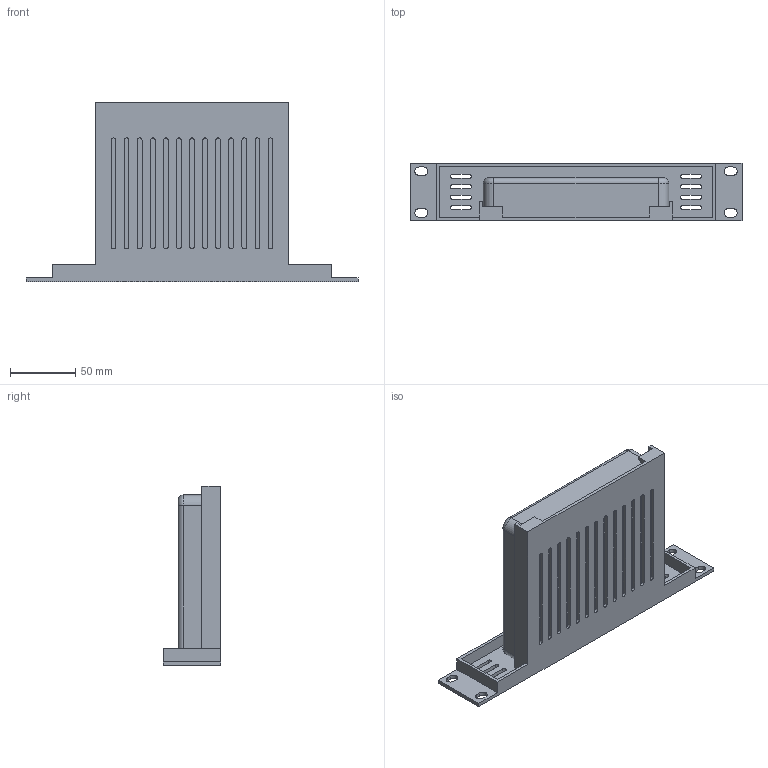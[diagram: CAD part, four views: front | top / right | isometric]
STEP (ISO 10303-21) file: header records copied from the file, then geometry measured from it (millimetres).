
FILE_DESCRIPTION(('Open CASCADE Model'),'2;1');
FILE_NAME('Open CASCADE Shape Model','2026-10-27T02:33:57',('Author'),( 'Open CASCADE'),'Open CASCADE STEP processor 7.9','Open CASCADE 7.9' ,'Unknown');
FILE_SCHEMA(('AUTOMOTIVE_DESIGN { 1 0 10303 214 1 1 1 1 }'));
Length unit declared in the file: millimetre
Products named in the file (3): c23de8e0-d180-11f1-94f0-77a649a1a46c; UCG_shelf; UCG_Ultra
Assembly tree (2 placements, depth 2):
  c23de8e0-d180-11f1-94f0-77a649a1a46c
    UCG_shelf
    UCG_Ultra
Bounding box: 254 x 43.65 x 137.2 mm (x, y, z)
Volume: 617543.5 mm3; surface area: 122002.5 mm2
Topology: 2 solids, 2 shells, 158 faces, 454 edges, 300 vertices
Faces by surface type: plane 92, cylinder 62, torus 4
Entity records: 11290 total; most frequent: CARTESIAN_POINT 2701, DIRECTION 1444, ORIENTED_EDGE 908, PCURVE 908, DEFINITIONAL_REPRESENTATION 908, LINE 852, VECTOR 852, EDGE_CURVE 454
